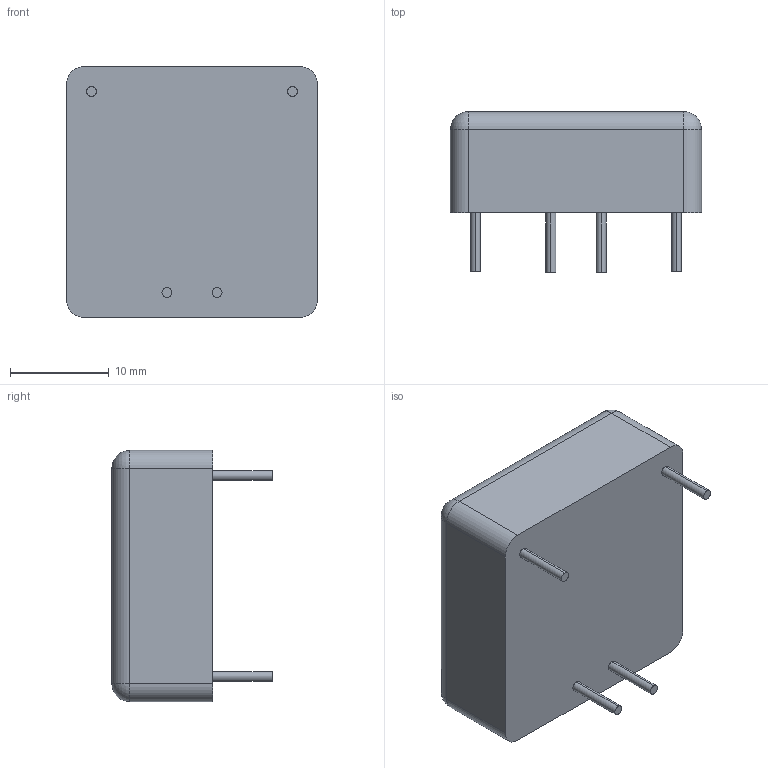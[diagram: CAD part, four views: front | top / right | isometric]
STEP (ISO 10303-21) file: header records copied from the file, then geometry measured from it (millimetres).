
FILE_DESCRIPTION (( 'STEP AP214' ), '1' );
FILE_NAME ('THL 10 single.STEP', '2024-06-12T00:40:19', ( '' ), ( '' ), 'SwSTEP 2.0', 'SolidWorks 2021', '' );
FILE_SCHEMA (( 'AUTOMOTIVE_DESIGN' ));
Length unit declared in the file: millimetre
Products named in the file (1): THL 10 single
Bounding box: 25.4 x 16.2 x 25.4 mm (x, y, z)
Volume: 6504.4 mm3; surface area: 2287.4 mm2
Topology: 1 solids, 1 shells, 30 faces, 64 edges, 36 vertices
Faces by surface type: cylinder 16, plane 10, sphere 4
Entity records: 1144 total; most frequent: DIRECTION 154, CARTESIAN_POINT 127, ORIENTED_EDGE 120, AXIS2_PLACEMENT_3D 63, EDGE_CURVE 60, VERTEX_POINT 36, EDGE_LOOP 34, UNCERTAINTY_MEASURE_WITH_UNIT 33
